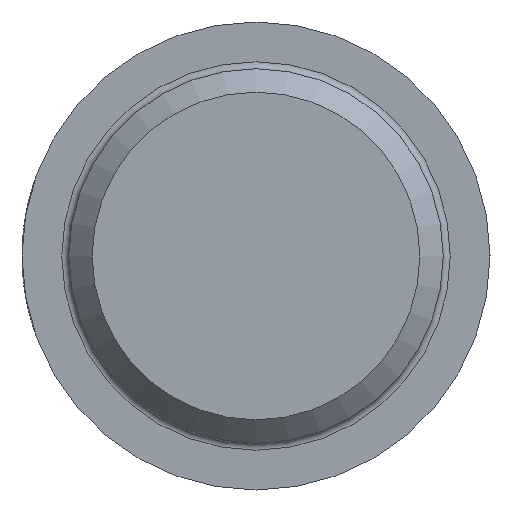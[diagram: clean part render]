
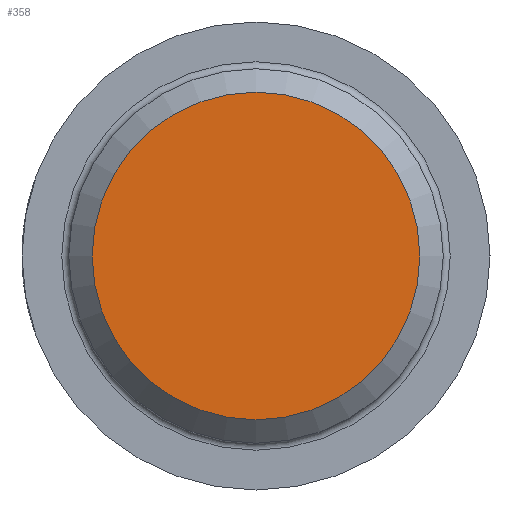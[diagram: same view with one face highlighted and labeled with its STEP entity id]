
A CAD part, left-side view. The second image highlights one B-rep face of the part: STEP entity #358.
In plain terms, the highlighted planar face has unit normal (-1, 0, 0).
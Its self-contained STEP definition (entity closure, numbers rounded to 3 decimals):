
#66=PLANE('',#401);
#109=FACE_OUTER_BOUND('',#145,.T.);
#145=EDGE_LOOP('',(#301));
#171=CIRCLE('',#400,7.);
#204=VERTEX_POINT('',#655);
#243=EDGE_CURVE('',#204,#204,#171,.T.);
#301=ORIENTED_EDGE('',*,*,#243,.F.);
#358=ADVANCED_FACE('',(#109),#66,.T.);
#400=AXIS2_PLACEMENT_3D('',#656,#490,#491);
#401=AXIS2_PLACEMENT_3D('',#657,#492,#493);
#490=DIRECTION('center_axis',(1.,0.,0.));
#491=DIRECTION('ref_axis',(0.,-1.,0.));
#492=DIRECTION('center_axis',(-1.,0.,0.));
#493=DIRECTION('ref_axis',(0.,0.,1.));
#655=CARTESIAN_POINT('',(0.,7.,0.));
#656=CARTESIAN_POINT('Origin',(0.,0.,0.));
#657=CARTESIAN_POINT('Origin',(0.,8.,0.));
